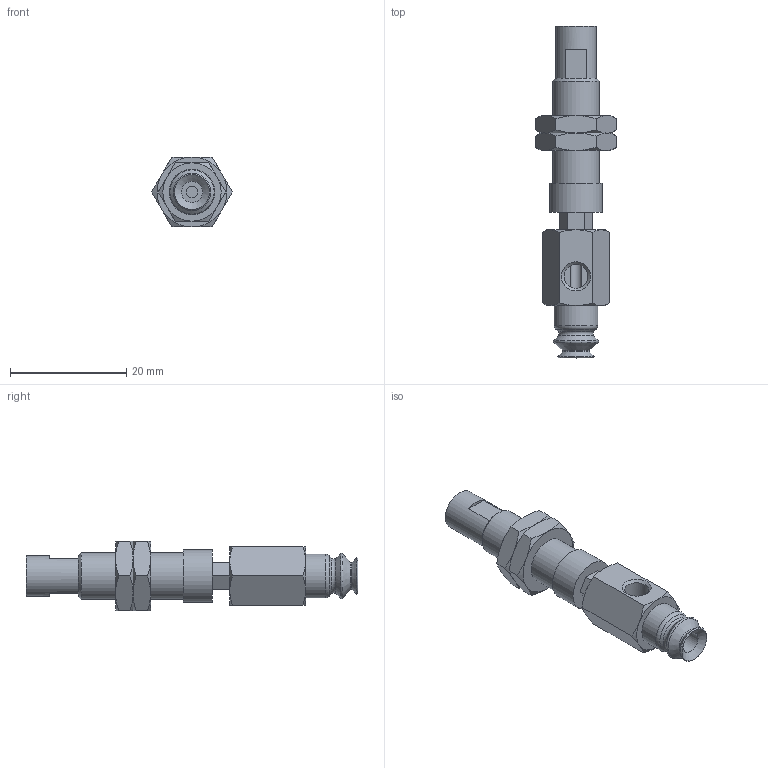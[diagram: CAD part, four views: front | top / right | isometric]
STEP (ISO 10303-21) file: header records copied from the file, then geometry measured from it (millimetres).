
FILE_DESCRIPTION(('STEP AP203'),'1');
FILE_NAME('.stp','2025-04-24T05:24:47',(' '),(' '),'Spatial InterOp 3D',' ',' ');
FILE_SCHEMA(('CONFIG_CONTROL_DESIGN'));
Length unit declared in the file: millimetre
Products named in the file (6): BNABPJYH-6-3-※; CONNECTOR_H-6-3; NAPJH-6-3-NUT; NAPJTH-6-3-FBODY; NAPJTH-6-3-MBODY; BPJG-6-※
Assembly tree (6 placements, depth 2):
  BNABPJYH-6-3-※
    CONNECTOR_H-6-3
    NAPJH-6-3-NUT  x2
    NAPJTH-6-3-FBODY
    NAPJTH-6-3-MBODY
    BPJG-6-※
Bounding box: 13.86 x 57 x 12 mm (x, y, z)
Volume: 3287.1 mm3; surface area: 4004.9 mm2
Topology: 6 solids, 6 shells, 141 faces, 310 edges, 188 vertices
Faces by surface type: plane 61, cone 54, cylinder 15, torus 11
Full cylindrical faces by diameter (mm): 2 x1, 3.64 x1, 4 x2, 4.134 x2, 5 x1, 6 x2, 7 x1, 7.188 x2, 7.5 x1, 8 x1, 9 x1
Entity records: 3484 total; most frequent: CARTESIAN_POINT 833, DIRECTION 488, ORIENTED_EDGE 422, EDGE_CURVE 211, AXIS2_PLACEMENT_3D 206, EDGE_LOOP 174, VERTEX_POINT 149, FACE_OUTER_BOUND 143
